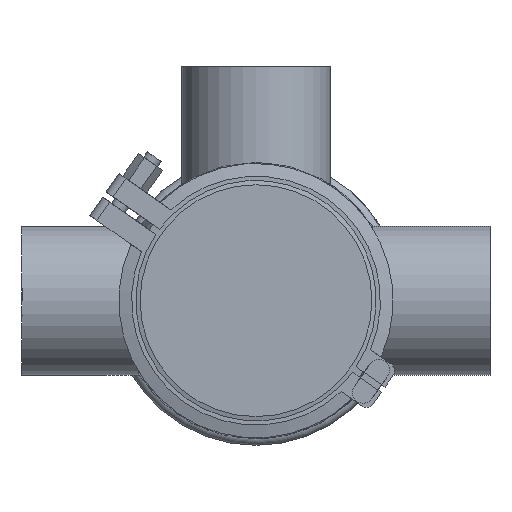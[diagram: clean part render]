
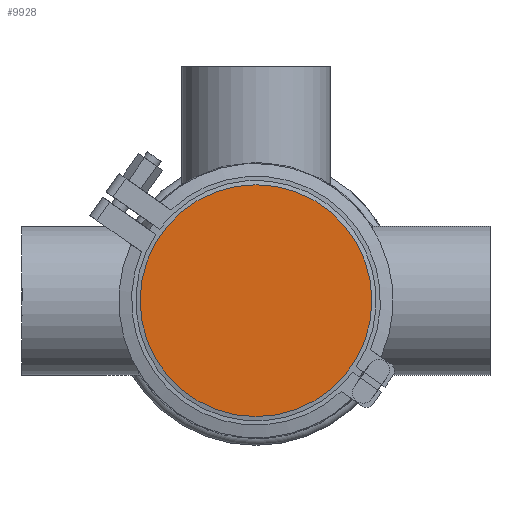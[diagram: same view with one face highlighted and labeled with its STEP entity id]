
A CAD part, front view. The second image highlights one B-rep face of the part: STEP entity #9928.
In plain terms, the highlighted planar face has unit normal (0, -1, 0).
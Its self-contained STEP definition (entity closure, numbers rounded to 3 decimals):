
#249 = DIRECTION ( 'NONE',  ( 0., -1., 0. ) ) ;
#536 = CARTESIAN_POINT ( 'NONE',  ( 0., 0., 54.5 ) ) ;
#735 = AXIS2_PLACEMENT_3D ( 'NONE', #20060, #11925, #11480 ) ;
#2162 = VERTEX_POINT ( 'NONE', #536 ) ;
#2415 = AXIS2_PLACEMENT_3D ( 'NONE', #20024, #249, #9927 ) ;
#3311 = PLANE ( 'NONE',  #2415 ) ;
#9927 = DIRECTION ( 'NONE',  ( 0., 0., -1. ) ) ;
#9928 = ADVANCED_FACE ( 'NONE', ( #16630 ), #3311, .T. ) ;
#11480 = DIRECTION ( 'NONE',  ( 0., 0., 1. ) ) ;
#11654 = EDGE_CURVE ( 'NONE', #2162, #2162, #13582, .T. ) ;
#11797 = EDGE_LOOP ( 'NONE', ( #15877 ) ) ;
#11925 = DIRECTION ( 'NONE',  ( 0., 1., 0. ) ) ;
#13582 = CIRCLE ( 'NONE', #735, 54.5 ) ;
#15877 = ORIENTED_EDGE ( 'NONE', *, *, #11654, .F. ) ;
#16630 = FACE_OUTER_BOUND ( 'NONE', #11797, .T. ) ;
#20024 = CARTESIAN_POINT ( 'NONE',  ( -54.5, 0., 0. ) ) ;
#20060 = CARTESIAN_POINT ( 'NONE',  ( 0., 0., 0. ) ) ;
